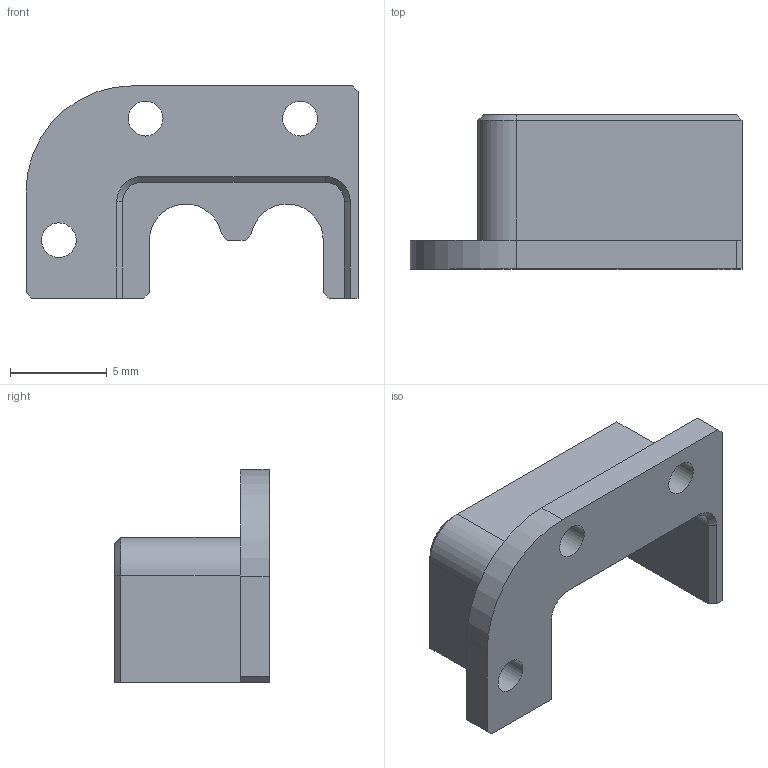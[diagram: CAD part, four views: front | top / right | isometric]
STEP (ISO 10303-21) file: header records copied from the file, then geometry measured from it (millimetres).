
FILE_DESCRIPTION (( 'STEP AP203' ), '1' );
FILE_NAME ('9-70-263 脣芛嘐隅璃.STEP', '2023-08-04T01:04:15', ( 'Windows User' ), ( 'P R C' ), 'SwSTEP 2.0', 'SolidWorks 2021', '' );
FILE_SCHEMA (( 'CONFIG_CONTROL_DESIGN' ));
Length unit declared in the file: millimetre
Products named in the file (1): 9-70-263 脣芛嘐隅璃
Bounding box: 17.2 x 8 x 11 mm (x, y, z)
Volume: 403.5 mm3; surface area: 725.1 mm2
Topology: 1 solids, 1 shells, 45 faces, 116 edges, 73 vertices
Faces by surface type: plane 31, cylinder 9, cone 5
Full cylindrical faces by diameter (mm): 1.8 x3
Entity records: 1425 total; most frequent: CARTESIAN_POINT 238, DIRECTION 226, ORIENTED_EDGE 226, EDGE_CURVE 113, VECTOR 88, LINE 88, VERTEX_POINT 73, AXIS2_PLACEMENT_3D 69
